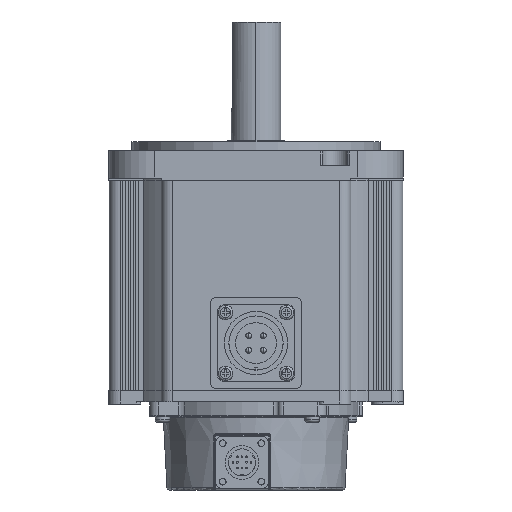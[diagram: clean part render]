
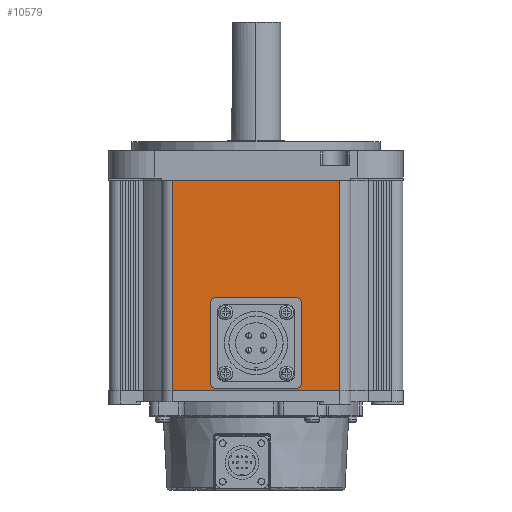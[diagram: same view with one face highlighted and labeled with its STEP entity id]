
A CAD part, front view. The second image highlights one B-rep face of the part: STEP entity #10579.
In plain terms, the highlighted planar face has unit normal (0, -1, 0) as drawn and (0, 1, 0) by its records, which use the part's own axes.
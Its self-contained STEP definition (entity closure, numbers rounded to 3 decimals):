
#677 = CARTESIAN_POINT ( 'NONE',  ( 37., 65., 0. ) ) ;
#858 = VERTEX_POINT ( 'NONE', #10986 ) ;
#1016 = VECTOR ( 'NONE', #4724, 1000. ) ;
#2369 = EDGE_LOOP ( 'NONE', ( #12495, #27560, #9130, #13889 ) ) ;
#2451 = EDGE_CURVE ( 'NONE', #858, #17738, #8882, .T. ) ;
#4203 = VECTOR ( 'NONE', #17973, 1000. ) ;
#4724 = DIRECTION ( 'NONE',  ( 0., 0., -1. ) ) ;
#4952 = LINE ( 'NONE', #28102, #13126 ) ;
#5271 = CIRCLE ( 'NONE', #30824, 5. ) ;
#8695 = PLANE ( 'NONE',  #19934 ) ;
#8859 = LINE ( 'NONE', #30521, #1016 ) ;
#8882 = LINE ( 'NONE', #18606, #11859 ) ;
#8951 = FACE_OUTER_BOUND ( 'NONE', #2369, .T. ) ;
#9130 = ORIENTED_EDGE ( 'NONE', *, *, #2451, .F. ) ;
#10216 = CARTESIAN_POINT ( 'NONE',  ( -5., 65., 21. ) ) ;
#10579 = ADVANCED_FACE ( 'NONE', ( #11936, #8951 ), #8695, .F. ) ;
#10986 = CARTESIAN_POINT ( 'NONE',  ( 37., 65., 93. ) ) ;
#11257 = DIRECTION ( 'NONE',  ( 0., 1., 0. ) ) ;
#11859 = VECTOR ( 'NONE', #25785, 1000. ) ;
#11936 = FACE_BOUND ( 'NONE', #29894, .T. ) ;
#12495 = ORIENTED_EDGE ( 'NONE', *, *, #21975, .T. ) ;
#12498 = EDGE_CURVE ( 'NONE', #17738, #24533, #8859, .T. ) ;
#13126 = VECTOR ( 'NONE', #30571, 1000. ) ;
#13654 = DIRECTION ( 'NONE',  ( 0., 1., 0. ) ) ;
#13889 = ORIENTED_EDGE ( 'NONE', *, *, #15574, .T. ) ;
#15574 = EDGE_CURVE ( 'NONE', #858, #19819, #30247, .T. ) ;
#16087 = CIRCLE ( 'NONE', #28212, 5. ) ;
#16135 = EDGE_CURVE ( 'NONE', #25169, #16360, #5271, .T. ) ;
#16334 = CARTESIAN_POINT ( 'NONE',  ( 0., 65., 21. ) ) ;
#16360 = VERTEX_POINT ( 'NONE', #10216 ) ;
#17738 = VERTEX_POINT ( 'NONE', #17885 ) ;
#17885 = CARTESIAN_POINT ( 'NONE',  ( -37., 65., 93. ) ) ;
#17973 = DIRECTION ( 'NONE',  ( 0., 0., -1. ) ) ;
#18013 = CARTESIAN_POINT ( 'NONE',  ( -37., 65., 93. ) ) ;
#18606 = CARTESIAN_POINT ( 'NONE',  ( -37., 65., 93. ) ) ;
#19819 = VERTEX_POINT ( 'NONE', #677 ) ;
#19934 = AXIS2_PLACEMENT_3D ( 'NONE', #18013, #25084, #24980 ) ;
#20178 = ORIENTED_EDGE ( 'NONE', *, *, #16135, .F. ) ;
#21879 = ORIENTED_EDGE ( 'NONE', *, *, #27503, .F. ) ;
#21975 = EDGE_CURVE ( 'NONE', #19819, #24533, #4952, .T. ) ;
#23406 = DIRECTION ( 'NONE',  ( -1., 0., 0. ) ) ;
#23733 = CARTESIAN_POINT ( 'NONE',  ( -37., 65., 0. ) ) ;
#24533 = VERTEX_POINT ( 'NONE', #23733 ) ;
#24980 = DIRECTION ( 'NONE',  ( 1., 0., 0. ) ) ;
#25084 = DIRECTION ( 'NONE',  ( 0., -1., 0. ) ) ;
#25169 = VERTEX_POINT ( 'NONE', #28833 ) ;
#25785 = DIRECTION ( 'NONE',  ( -1., 0., 0. ) ) ;
#27503 = EDGE_CURVE ( 'NONE', #16360, #25169, #16087, .T. ) ;
#27560 = ORIENTED_EDGE ( 'NONE', *, *, #12498, .F. ) ;
#28007 = DIRECTION ( 'NONE',  ( -1., 0., 0. ) ) ;
#28102 = CARTESIAN_POINT ( 'NONE',  ( -37., 65., 0. ) ) ;
#28212 = AXIS2_PLACEMENT_3D ( 'NONE', #30174, #11257, #28007 ) ;
#28833 = CARTESIAN_POINT ( 'NONE',  ( 5., 65., 21. ) ) ;
#29894 = EDGE_LOOP ( 'NONE', ( #21879, #20178 ) ) ;
#30160 = CARTESIAN_POINT ( 'NONE',  ( 37., 65., 93. ) ) ;
#30174 = CARTESIAN_POINT ( 'NONE',  ( 0., 65., 21. ) ) ;
#30247 = LINE ( 'NONE', #30160, #4203 ) ;
#30521 = CARTESIAN_POINT ( 'NONE',  ( -37., 65., 93. ) ) ;
#30571 = DIRECTION ( 'NONE',  ( -1., 0., 0. ) ) ;
#30824 = AXIS2_PLACEMENT_3D ( 'NONE', #16334, #13654, #23406 ) ;
